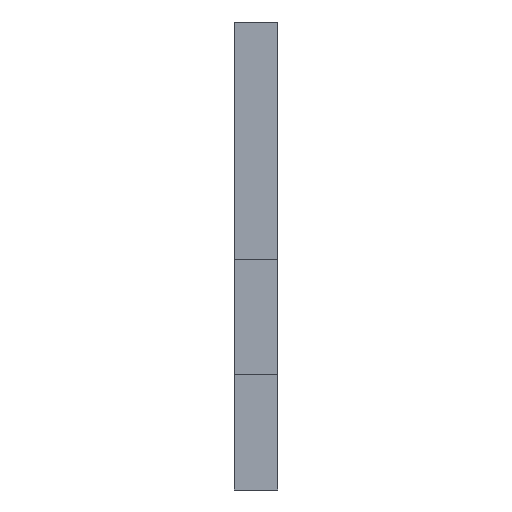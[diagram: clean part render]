
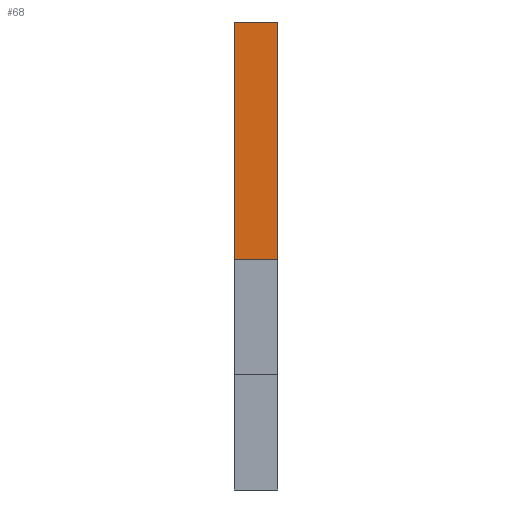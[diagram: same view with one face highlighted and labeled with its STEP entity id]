
A CAD part, left-side view. The second image highlights one B-rep face of the part: STEP entity #68.
In plain terms, the highlighted planar face has unit normal (-1, 0, 0).
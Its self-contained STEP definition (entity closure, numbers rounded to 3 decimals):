
#68=ADVANCED_FACE('',(#102),#1244,.T.);
#102=FACE_OUTER_BOUND('',#144,.T.);
#144=EDGE_LOOP('',(#259,#260,#261,#262));
#259=ORIENTED_EDGE('',*,*,#924,.T.);
#260=ORIENTED_EDGE('',*,*,#925,.T.);
#261=ORIENTED_EDGE('',*,*,#926,.T.);
#262=ORIENTED_EDGE('',*,*,#927,.T.);
#519=PCURVE('',#1244,#699);
#520=PCURVE('',#1244,#700);
#521=PCURVE('',#1244,#701);
#522=PCURVE('',#1244,#702);
#526=PCURVE('',#1245,#706);
#544=PCURVE('',#1250,#724);
#569=PCURVE('',#1251,#749);
#578=PCURVE('',#1252,#758);
#699=DEFINITIONAL_REPRESENTATION('',(#1065),#2414);
#700=DEFINITIONAL_REPRESENTATION('',(#1067),#2414);
#701=DEFINITIONAL_REPRESENTATION('',(#1069),#2414);
#702=DEFINITIONAL_REPRESENTATION('',(#1071),#2414);
#706=DEFINITIONAL_REPRESENTATION('',(#1078),#2414);
#724=DEFINITIONAL_REPRESENTATION('',(#1109),#2414);
#749=DEFINITIONAL_REPRESENTATION('',(#1135),#2414);
#758=DEFINITIONAL_REPRESENTATION('',(#1136),#2414);
#834=SURFACE_CURVE('',#1064,(#519,#569),.PCURVE_S1.);
#835=SURFACE_CURVE('',#1066,(#520,#526),.PCURVE_S1.);
#836=SURFACE_CURVE('',#1068,(#521,#578),.PCURVE_S1.);
#837=SURFACE_CURVE('',#1070,(#522,#544),.PCURVE_S1.);
#924=EDGE_CURVE('',#1189,#1190,#834,.T.);
#925=EDGE_CURVE('',#1190,#1191,#835,.T.);
#926=EDGE_CURVE('',#1191,#1192,#836,.T.);
#927=EDGE_CURVE('',#1192,#1189,#837,.T.);
#1064=B_SPLINE_CURVE_WITH_KNOTS('',1,(#2047,#2048),.UNSPECIFIED.,.F.,.F.,
(2,2),(0.,27.659),.UNSPECIFIED.);
#1065=B_SPLINE_CURVE_WITH_KNOTS('',1,(#2049,#2050),.UNSPECIFIED.,.F.,.F.,
(2,2),(0.,27.659),.UNSPECIFIED.);
#1066=B_SPLINE_CURVE_WITH_KNOTS('',1,(#2051,#2052),.UNSPECIFIED.,.F.,.F.,
(2,2),(0.,6.),.UNSPECIFIED.);
#1067=B_SPLINE_CURVE_WITH_KNOTS('',1,(#2053,#2054),.UNSPECIFIED.,.F.,.F.,
(2,2),(0.,6.),.UNSPECIFIED.);
#1068=B_SPLINE_CURVE_WITH_KNOTS('',1,(#2055,#2056),.UNSPECIFIED.,.F.,.F.,
(2,2),(-27.659,0.),.UNSPECIFIED.);
#1069=B_SPLINE_CURVE_WITH_KNOTS('',1,(#2057,#2058),.UNSPECIFIED.,.F.,.F.,
(2,2),(-27.659,0.),.UNSPECIFIED.);
#1070=B_SPLINE_CURVE_WITH_KNOTS('',1,(#2059,#2060),.UNSPECIFIED.,.F.,.F.,
(2,2),(-6.,0.),.UNSPECIFIED.);
#1071=B_SPLINE_CURVE_WITH_KNOTS('',1,(#2061,#2062),.UNSPECIFIED.,.F.,.F.,
(2,2),(-6.,0.),.UNSPECIFIED.);
#1078=B_SPLINE_CURVE_WITH_KNOTS('',1,(#2075,#2076),.UNSPECIFIED.,.F.,.F.,
(2,2),(0.,6.),.UNSPECIFIED.);
#1109=B_SPLINE_CURVE_WITH_KNOTS('',1,(#2137,#2138),.UNSPECIFIED.,.F.,.F.,
(2,2),(-6.,0.),.UNSPECIFIED.);
#1135=B_SPLINE_CURVE_WITH_KNOTS('',1,(#2245,#2246),.UNSPECIFIED.,.F.,.F.,
(2,2),(0.,27.659),.UNSPECIFIED.);
#1136=B_SPLINE_CURVE_WITH_KNOTS('',1,(#2307,#2308),.UNSPECIFIED.,.F.,.F.,
(2,2),(-27.659,0.),.UNSPECIFIED.);
#1189=VERTEX_POINT('',#2017);
#1190=VERTEX_POINT('',#2018);
#1191=VERTEX_POINT('',#2019);
#1192=VERTEX_POINT('',#2020);
#1244=PLANE('',#1282);
#1245=PLANE('',#1283);
#1250=PLANE('',#1288);
#1251=PLANE('',#1289);
#1252=PLANE('',#1290);
#1282=AXIS2_PLACEMENT_3D('',#1864,#1303,$);
#1283=AXIS2_PLACEMENT_3D('',#1865,#1304,$);
#1288=AXIS2_PLACEMENT_3D('',#1870,#1309,$);
#1289=AXIS2_PLACEMENT_3D('',#1943,#1310,$);
#1290=AXIS2_PLACEMENT_3D('',#1944,#1311,$);
#1303=DIRECTION('',(-1.,0.,0.));
#1304=DIRECTION('',(0.,0.,1.));
#1309=DIRECTION('',(0.,0.,1.));
#1310=DIRECTION('',(0.,-1.,0.));
#1311=DIRECTION('',(0.,1.,0.));
#1864=CARTESIAN_POINT('',(-810.,-545.,105.));
#1865=CARTESIAN_POINT('',(-810.,-545.,138.));
#1870=CARTESIAN_POINT('',(-848.,-545.,105.));
#1943=CARTESIAN_POINT('',(-767.,-545.,64.875));
#1944=CARTESIAN_POINT('',(-767.,-539.,64.875));
#2017=CARTESIAN_POINT('',(-810.,-545.,105.));
#2018=CARTESIAN_POINT('',(-810.,-545.,138.));
#2019=CARTESIAN_POINT('',(-810.,-539.,138.));
#2020=CARTESIAN_POINT('',(-810.,-539.,105.));
#2047=CARTESIAN_POINT('',(-810.,-545.,105.));
#2048=CARTESIAN_POINT('',(-810.,-545.,138.));
#2049=CARTESIAN_POINT('',(0.,0.));
#2050=CARTESIAN_POINT('',(27.659,0.));
#2051=CARTESIAN_POINT('',(-810.,-545.,138.));
#2052=CARTESIAN_POINT('',(-810.,-539.,138.));
#2053=CARTESIAN_POINT('',(27.659,0.));
#2054=CARTESIAN_POINT('',(27.659,6.));
#2055=CARTESIAN_POINT('',(-810.,-539.,138.));
#2056=CARTESIAN_POINT('',(-810.,-539.,105.));
#2057=CARTESIAN_POINT('',(27.659,6.));
#2058=CARTESIAN_POINT('',(0.,6.));
#2059=CARTESIAN_POINT('',(-810.,-539.,105.));
#2060=CARTESIAN_POINT('',(-810.,-545.,105.));
#2061=CARTESIAN_POINT('',(0.,6.));
#2062=CARTESIAN_POINT('',(0.,0.));
#2075=CARTESIAN_POINT('',(27.659,0.));
#2076=CARTESIAN_POINT('',(27.659,6.));
#2137=CARTESIAN_POINT('',(237.07,6.));
#2138=CARTESIAN_POINT('',(237.07,0.));
#2245=CARTESIAN_POINT('',(-22.,10.6));
#2246=CARTESIAN_POINT('',(11.,10.6));
#2307=CARTESIAN_POINT('',(10.6,11.));
#2308=CARTESIAN_POINT('',(10.6,-22.));
#2414=(
GEOMETRIC_REPRESENTATION_CONTEXT(2)
PARAMETRIC_REPRESENTATION_CONTEXT()
REPRESENTATION_CONTEXT('pspace','')
);
